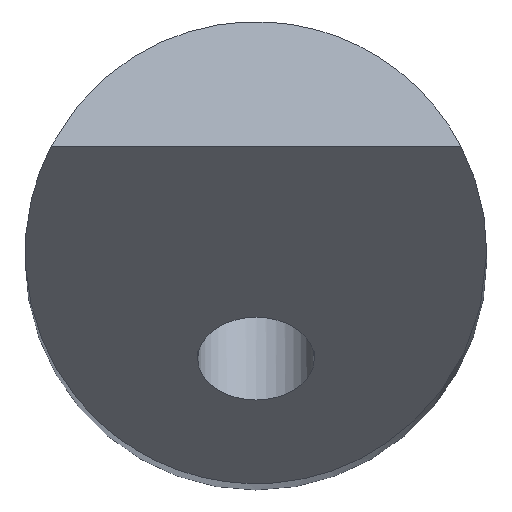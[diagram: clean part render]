
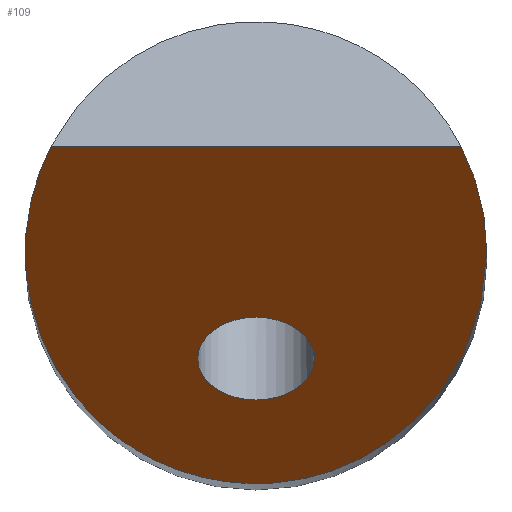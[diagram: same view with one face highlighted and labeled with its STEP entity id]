
A CAD part, top view. The second image highlights one B-rep face of the part: STEP entity #109.
In plain terms, the highlighted planar face has unit normal (0, -0.707, 0.707).
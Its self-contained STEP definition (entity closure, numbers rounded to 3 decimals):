
#20=FACE_BOUND('',#36,.T.);
#23=CIRCLE('',#134,1.265);
#28=FACE_OUTER_BOUND('',#35,.T.);
#35=EDGE_LOOP('',(#81,#82,#83));
#36=EDGE_LOOP('',(#84));
#44=LINE('',#183,#49);
#49=VECTOR('',#149,10.);
#55=ELLIPSE('',#132,7.071,5.);
#56=ELLIPSE('',#133,7.071,5.);
#57=VERTEX_POINT('',#180);
#58=VERTEX_POINT('',#181);
#59=VERTEX_POINT('',#185);
#60=VERTEX_POINT('',#188);
#67=EDGE_CURVE('',#58,#57,#44,.T.);
#68=EDGE_CURVE('',#59,#57,#55,.T.);
#69=EDGE_CURVE('',#58,#59,#56,.T.);
#70=EDGE_CURVE('',#60,#60,#23,.T.);
#81=ORIENTED_EDGE('',*,*,#67,.T.);
#82=ORIENTED_EDGE('',*,*,#68,.F.);
#83=ORIENTED_EDGE('',*,*,#69,.F.);
#84=ORIENTED_EDGE('',*,*,#70,.T.);
#106=PLANE('',#131);
#109=ADVANCED_FACE('',(#28,#20),#106,.F.);
#131=AXIS2_PLACEMENT_3D('',#184,#150,#151);
#132=AXIS2_PLACEMENT_3D('',#186,#152,#153);
#133=AXIS2_PLACEMENT_3D('',#187,#154,#155);
#134=AXIS2_PLACEMENT_3D('',#189,#156,#157);
#149=DIRECTION('',(-1.,0.,0.));
#150=DIRECTION('center_axis',(0.,0.707,-0.707));
#151=DIRECTION('ref_axis',(0.,0.707,0.707));
#152=DIRECTION('center_axis',(0.,0.707,-0.707));
#153=DIRECTION('ref_axis',(0.,-0.707,-0.707));
#154=DIRECTION('center_axis',(0.,0.707,-0.707));
#155=DIRECTION('ref_axis',(0.,-0.707,-0.707));
#156=DIRECTION('center_axis',(0.,0.707,-0.707));
#157=DIRECTION('ref_axis',(1.,0.,0.));
#180=CARTESIAN_POINT('',(-99.789,112.235,77.257));
#181=CARTESIAN_POINT('',(-90.91,112.235,77.257));
#183=CARTESIAN_POINT('',(-96.88,112.235,77.257));
#184=CARTESIAN_POINT('Origin',(-102.85,96.422,61.443));
#185=CARTESIAN_POINT('',(-90.35,109.936,74.957));
#186=CARTESIAN_POINT('Origin',(-95.35,109.936,74.957));
#187=CARTESIAN_POINT('Origin',(-95.35,109.936,74.957));
#188=CARTESIAN_POINT('',(-96.614,107.639,72.66));
#189=CARTESIAN_POINT('Origin',(-95.35,107.639,72.66));
